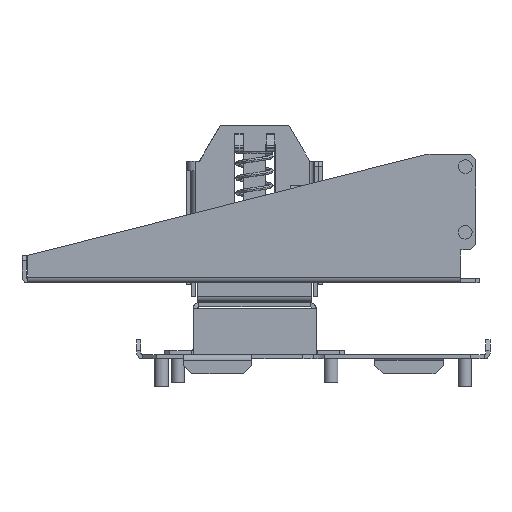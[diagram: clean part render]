
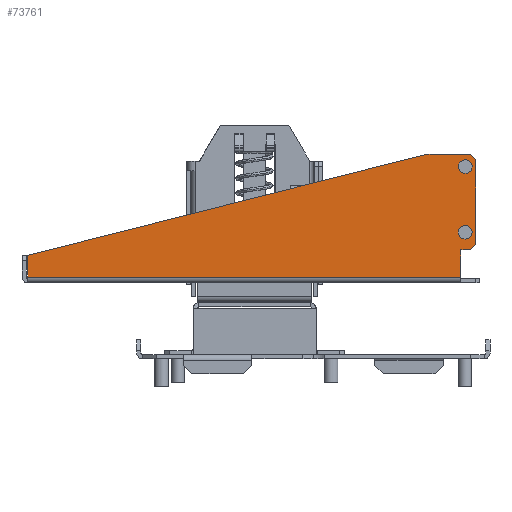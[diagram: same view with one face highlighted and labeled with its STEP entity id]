
A CAD part, left-side view. The second image highlights one B-rep face of the part: STEP entity #73761.
In plain terms, the highlighted planar face has unit normal (-1, 0, 0).
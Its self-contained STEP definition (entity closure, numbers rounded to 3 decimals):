
#70686=CARTESIAN_POINT(' ',(-111.25,-75.4,0.6));
#70687=VERTEX_POINT(' ',#70686);
#70701=CARTESIAN_POINT(' ',(-111.25,-75.4,0.6));
#70706=DIRECTION(' ',(0.,1.,0.));
#70711=VECTOR(' ',#70706,1.);
#70716=LINE('',#70701,#70711);
#70721=CARTESIAN_POINT(' ',(-111.25,83.,0.6));
#70722=VERTEX_POINT(' ',#70721);
#70726=EDGE_CURVE(' ',#70687,#70722,#70716,.T.);
#72101=CARTESIAN_POINT(' ',(-111.25,83.,8.5));
#72106=DIRECTION(' ',(0.,0.,-1.));
#72111=VECTOR(' ',#72106,1.);
#72116=LINE('',#72101,#72111);
#72121=CARTESIAN_POINT(' ',(-111.25,83.,8.5));
#72122=VERTEX_POINT(' ',#72121);
#72126=EDGE_CURVE(' ',#72122,#70722,#72116,.T.);
#72321=CARTESIAN_POINT(' ',(-111.25,-75.4,10.5));
#72322=VERTEX_POINT(' ',#72321);
#72336=CARTESIAN_POINT(' ',(-111.25,-75.4,10.5));
#72341=DIRECTION(' ',(0.,0.,-1.));
#72346=VECTOR(' ',#72341,1.);
#72351=LINE('',#72336,#72346);
#72356=EDGE_CURVE(' ',#72322,#70687,#72351,.T.);
#73326=DIRECTION(' ',(-1.,-0.,0.));
#73331=CARTESIAN_POINT(' ',(-111.25,-80.9,45.5));
#73336=DIRECTION(' ',(-0.,1.,0.));
#73341=AXIS2_PLACEMENT_3D(' ',#73331,#73326,#73336);
#73346=PLANE('NONE',#73341);
#73351=CARTESIAN_POINT(' ',(-111.25,-78.9,10.5));
#73356=DIRECTION(' ',(0.,1.,0.));
#73361=VECTOR(' ',#73356,1.);
#73366=LINE('',#73351,#73361);
#73371=CARTESIAN_POINT(' ',(-111.25,-78.9,10.5));
#73372=VERTEX_POINT(' ',#73371);
#73376=EDGE_CURVE(' ',#73372,#72322,#73366,.T.);
#73381=ORIENTED_EDGE(' ',*,*,#73376,.F.);
#73386=CARTESIAN_POINT(' ',(-111.25,-78.9,10.5));
#73391=DIRECTION(' ',(0.,-0.707,0.707));
#73396=VECTOR(' ',#73391,1.);
#73401=LINE('',#73386,#73396);
#73406=CARTESIAN_POINT(' ',(-111.25,-80.9,12.5));
#73407=VERTEX_POINT(' ',#73406);
#73411=EDGE_CURVE(' ',#73372,#73407,#73401,.T.);
#73416=ORIENTED_EDGE(' ',*,*,#73411,.T.);
#73421=CARTESIAN_POINT(' ',(-111.25,-80.9,12.5));
#73426=DIRECTION(' ',(0.,0.,1.));
#73431=VECTOR(' ',#73426,1.);
#73436=LINE('',#73421,#73431);
#73441=CARTESIAN_POINT(' ',(-111.25,-80.9,43.5));
#73442=VERTEX_POINT(' ',#73441);
#73446=EDGE_CURVE(' ',#73407,#73442,#73436,.T.);
#73451=ORIENTED_EDGE(' ',*,*,#73446,.T.);
#73456=CARTESIAN_POINT(' ',(-111.25,-80.9,43.5));
#73461=DIRECTION(' ',(0.,0.707,0.707));
#73466=VECTOR(' ',#73461,1.);
#73471=LINE('',#73456,#73466);
#73476=CARTESIAN_POINT(' ',(-111.25,-78.9,45.5));
#73477=VERTEX_POINT(' ',#73476);
#73481=EDGE_CURVE(' ',#73442,#73477,#73471,.T.);
#73486=ORIENTED_EDGE(' ',*,*,#73481,.T.);
#73491=CARTESIAN_POINT(' ',(-111.25,-78.9,45.5));
#73496=DIRECTION(' ',(0.,1.,0.));
#73501=VECTOR(' ',#73496,1.);
#73506=LINE('',#73491,#73501);
#73511=CARTESIAN_POINT(' ',(-111.25,-63.,45.5));
#73512=VERTEX_POINT(' ',#73511);
#73516=EDGE_CURVE(' ',#73477,#73512,#73506,.T.);
#73521=ORIENTED_EDGE(' ',*,*,#73516,.T.);
#73526=CARTESIAN_POINT(' ',(-111.25,-63.,45.5));
#73531=DIRECTION(' ',(0.,0.969,-0.246));
#73536=VECTOR(' ',#73531,1.);
#73541=LINE('',#73526,#73536);
#73546=EDGE_CURVE(' ',#73512,#72122,#73541,.T.);
#73551=ORIENTED_EDGE(' ',*,*,#73546,.T.);
#73556=ORIENTED_EDGE(' ',*,*,#72126,.T.);
#73561=ORIENTED_EDGE(' ',*,*,#70726,.F.);
#73566=ORIENTED_EDGE(' ',*,*,#72356,.F.);
#73571=EDGE_LOOP(' ',(#73381,#73416,#73451,#73486,#73521,#73551,#73556,#73561,#73566));
#73576=FACE_OUTER_BOUND(' ',#73571,.T.);
#73581=CARTESIAN_POINT(' ',(-111.25,-77.,41.));
#73586=DIRECTION(' ',(-1.,0.,0.));
#73591=DIRECTION(' ',(0.,0.,1.));
#73596=AXIS2_PLACEMENT_3D(' ',#73581,#73586,#73591);
#73601=CIRCLE('',#73596,2.1);
#73606=CARTESIAN_POINT(' ',(-111.25,-77.,43.1));
#73607=VERTEX_POINT(' ',#73606);
#73611=CARTESIAN_POINT(' ',(-111.25,-77.,38.9));
#73612=VERTEX_POINT(' ',#73611);
#73616=EDGE_CURVE(' ',#73607,#73612,#73601,.T.);
#73621=ORIENTED_EDGE(' ',*,*,#73616,.F.);
#73626=CARTESIAN_POINT(' ',(-111.25,-77.,41.));
#73631=DIRECTION(' ',(-1.,0.,0.));
#73636=DIRECTION(' ',(0.,0.,-1.));
#73641=AXIS2_PLACEMENT_3D(' ',#73626,#73631,#73636);
#73646=CIRCLE('',#73641,2.1);
#73651=EDGE_CURVE(' ',#73612,#73607,#73646,.T.);
#73656=ORIENTED_EDGE(' ',*,*,#73651,.F.);
#73661=EDGE_LOOP(' ',(#73621,#73656));
#73666=FACE_BOUND(' ',#73661,.T.);
#73671=CARTESIAN_POINT(' ',(-111.25,-77.,17.));
#73676=DIRECTION(' ',(-1.,0.,0.));
#73681=DIRECTION(' ',(0.,0.,1.));
#73686=AXIS2_PLACEMENT_3D(' ',#73671,#73676,#73681);
#73691=CIRCLE('',#73686,2.1);
#73696=CARTESIAN_POINT(' ',(-111.25,-77.,19.1));
#73697=VERTEX_POINT(' ',#73696);
#73701=CARTESIAN_POINT(' ',(-111.25,-77.,14.9));
#73702=VERTEX_POINT(' ',#73701);
#73706=EDGE_CURVE(' ',#73697,#73702,#73691,.T.);
#73711=ORIENTED_EDGE(' ',*,*,#73706,.F.);
#73716=CARTESIAN_POINT(' ',(-111.25,-77.,17.));
#73721=DIRECTION(' ',(-1.,0.,0.));
#73726=DIRECTION(' ',(0.,0.,-1.));
#73731=AXIS2_PLACEMENT_3D(' ',#73716,#73721,#73726);
#73736=CIRCLE('',#73731,2.1);
#73741=EDGE_CURVE(' ',#73702,#73697,#73736,.T.);
#73746=ORIENTED_EDGE(' ',*,*,#73741,.F.);
#73751=EDGE_LOOP(' ',(#73711,#73746));
#73756=FACE_BOUND(' ',#73751,.T.);
#73761=ADVANCED_FACE('NONE',(#73576,#73666,#73756),#73346,.T.);
